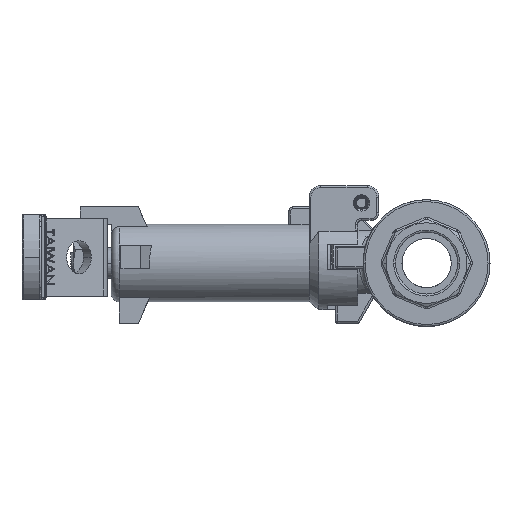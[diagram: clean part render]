
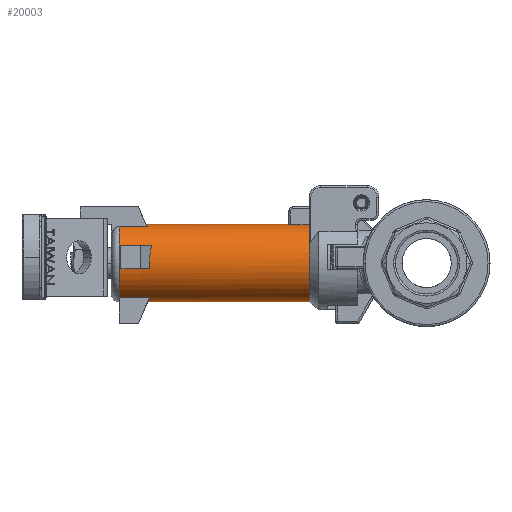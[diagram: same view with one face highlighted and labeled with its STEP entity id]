
A CAD part, left-side view. The second image highlights one B-rep face of the part: STEP entity #20003.
In plain terms, the highlighted cylindrical face has radius 10 mm (diameter 20 mm), a partial arc.
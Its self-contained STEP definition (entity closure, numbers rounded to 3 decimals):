
#409 =( BOUNDED_CURVE ( )  B_SPLINE_CURVE ( 3, ( #145292, #83401, #21596, #108368 ),
 .UNSPECIFIED., .F., .F. ) 
 B_SPLINE_CURVE_WITH_KNOTS ( ( 4, 4 ),
 ( 5.816, 6.434 ),
 .UNSPECIFIED. ) 
 CURVE ( )  GEOMETRIC_REPRESENTATION_ITEM ( )  RATIONAL_B_SPLINE_CURVE ( ( 1., 0.968, 0.968, 1. ) ) 
 REPRESENTATION_ITEM ( '' )  );
#996 = VERTEX_POINT ( 'NONE', #106354 ) ;
#2001 = VERTEX_POINT ( 'NONE', #64429 ) ;
#3037 =( BOUNDED_CURVE ( )  B_SPLINE_CURVE ( 3, ( #81118, #155459, #19293, #106054 ),
 .UNSPECIFIED., .F., .T. ) 
 B_SPLINE_CURVE_WITH_KNOTS ( ( 4, 4 ),
 ( 0., 0.358 ),
 .UNSPECIFIED. ) 
 CURVE ( )  GEOMETRIC_REPRESENTATION_ITEM ( )  RATIONAL_B_SPLINE_CURVE ( ( 1., 0.989, 0.989, 1. ) ) 
 REPRESENTATION_ITEM ( '' )  );
#3659 = CARTESIAN_POINT ( 'NONE',  ( -8.93, 45.492, 4.5 ) ) ;
#4937 = EDGE_CURVE ( 'NONE', #80709, #47697, #115204, .T. ) ;
#6174 = CARTESIAN_POINT ( 'NONE',  ( 0., 45.492, 10. ) ) ;
#7942 = VECTOR ( 'NONE', #105414, 1000. ) ;
#8318 = DIRECTION ( 'NONE',  ( 0., -1., 0. ) ) ;
#11839 = CIRCLE ( 'NONE', #21648, 10. ) ;
#12316 = VERTEX_POINT ( 'NONE', #158251 ) ;
#12679 = EDGE_CURVE ( 'NONE', #158412, #60089, #139936, .T. ) ;
#13613 = VERTEX_POINT ( 'NONE', #47109 ) ;
#14112 = VECTOR ( 'NONE', #48323, 1000. ) ;
#16865 = EDGE_CURVE ( 'NONE', #53509, #158412, #11839, .T. ) ;
#17288 = EDGE_LOOP ( 'NONE', ( #35042, #120536, #21696, #91595 ) ) ;
#18077 = LINE ( 'NONE', #107257, #146193 ) ;
#19293 = CARTESIAN_POINT ( 'NONE',  ( -2.377, 47.451, 9.787 ) ) ;
#19975 = VERTEX_POINT ( 'NONE', #131655 ) ;
#20003 = ADVANCED_FACE ( 'NONE', ( #61790, #32718 ), #65704, .T. ) ;
#20506 = DIRECTION ( 'NONE',  ( 0., 1., 0. ) ) ;
#20508 = DIRECTION ( 'NONE',  ( 0., 1., 0. ) ) ;
#21596 = CARTESIAN_POINT ( 'NONE',  ( -10.201, 46.696, 0.567 ) ) ;
#21648 = AXIS2_PLACEMENT_3D ( 'NONE', #57253, #144123, #69793 ) ;
#21696 = ORIENTED_EDGE ( 'NONE', *, *, #31898, .T. ) ;
#24418 = CARTESIAN_POINT ( 'NONE',  ( -9.887, 54., -1.5 ) ) ;
#24545 = EDGE_CURVE ( 'NONE', #19975, #53942, #64963, .T. ) ;
#27152 = CARTESIAN_POINT ( 'NONE',  ( -4.5, 46.643, -8.93 ) ) ;
#27699 = CARTESIAN_POINT ( 'NONE',  ( 0., 47.109, -10. ) ) ;
#30396 = DIRECTION ( 'NONE',  ( 0., 1., 0. ) ) ;
#31898 = EDGE_CURVE ( 'NONE', #53942, #59941, #59138, .T. ) ;
#31965 = VECTOR ( 'NONE', #33639, 1000. ) ;
#32276 = ORIENTED_EDGE ( 'NONE', *, *, #89707, .T. ) ;
#32495 = ORIENTED_EDGE ( 'NONE', *, *, #53659, .T. ) ;
#32718 = FACE_BOUND ( 'NONE', #17288, .T. ) ;
#33639 = DIRECTION ( 'NONE',  ( 0., 1., 0. ) ) ;
#34189 = CARTESIAN_POINT ( 'NONE',  ( -4.5, 45.492, -8.93 ) ) ;
#35042 = ORIENTED_EDGE ( 'NONE', *, *, #61333, .T. ) ;
#35447 = CIRCLE ( 'NONE', #96741, 10. ) ;
#35875 = CARTESIAN_POINT ( 'NONE',  ( -3.5, 45.492, 9.367 ) ) ;
#39040 = ORIENTED_EDGE ( 'NONE', *, *, #4937, .T. ) ;
#39493 = CARTESIAN_POINT ( 'NONE',  ( -8.93, 46.143, 4.5 ) ) ;
#40630 = EDGE_CURVE ( 'NONE', #138505, #12316, #18077, .T. ) ;
#41514 =( BOUNDED_CURVE ( )  B_SPLINE_CURVE ( 3, ( #27152, #126403, #101992, #27699 ),
 .UNSPECIFIED., .F., .F. ) 
 B_SPLINE_CURVE_WITH_KNOTS ( ( 4, 4 ),
 ( 5.816, 6.283 ),
 .UNSPECIFIED. ) 
 CURVE ( )  GEOMETRIC_REPRESENTATION_ITEM ( )  RATIONAL_B_SPLINE_CURVE ( ( 1., 0.982, 0.982, 1. ) ) 
 REPRESENTATION_ITEM ( '' )  );
#42140 = ORIENTED_EDGE ( 'NONE', *, *, #115755, .T. ) ;
#45317 = VECTOR ( 'NONE', #120946, 1000. ) ;
#47109 = CARTESIAN_POINT ( 'NONE',  ( -3.5, 47.268, 9.367 ) ) ;
#47697 = VERTEX_POINT ( 'NONE', #54552 ) ;
#48323 = DIRECTION ( 'NONE',  ( 0., 1., 0. ) ) ;
#53509 = VERTEX_POINT ( 'NONE', #153577 ) ;
#53659 = EDGE_CURVE ( 'NONE', #996, #53509, #35447, .T. ) ;
#53942 = VERTEX_POINT ( 'NONE', #24418 ) ;
#54552 = CARTESIAN_POINT ( 'NONE',  ( -4.5, 46.643, -8.93 ) ) ;
#55635 = EDGE_CURVE ( 'NONE', #59941, #101024, #68156, .T. ) ;
#57253 = CARTESIAN_POINT ( 'NONE',  ( 0., 5.5, 0. ) ) ;
#59138 = CIRCLE ( 'NONE', #111019, 10. ) ;
#59941 = VERTEX_POINT ( 'NONE', #100351 ) ;
#60089 = VERTEX_POINT ( 'NONE', #78081 ) ;
#60400 = DIRECTION ( 'NONE',  ( 0., 1., 0. ) ) ;
#61333 = EDGE_CURVE ( 'NONE', #101024, #19975, #409, .T. ) ;
#61790 = FACE_OUTER_BOUND ( 'NONE', #157104, .T. ) ;
#64429 = CARTESIAN_POINT ( 'NONE',  ( -3.5, 54.5, 9.367 ) ) ;
#64963 = LINE ( 'NONE', #95453, #31965 ) ;
#65704 = CYLINDRICAL_SURFACE ( 'NONE', #124748, 10. ) ;
#66599 = DIRECTION ( 'NONE',  ( 0., -1., 0. ) ) ;
#68156 = LINE ( 'NONE', #3659, #126340 ) ;
#69777 = CARTESIAN_POINT ( 'NONE',  ( 0., 5.5, 10. ) ) ;
#69793 = DIRECTION ( 'NONE',  ( 0., 0., 1. ) ) ;
#70656 = CIRCLE ( 'NONE', #123854, 10. ) ;
#71086 = CARTESIAN_POINT ( 'NONE',  ( 0., 5.5, 0. ) ) ;
#78081 = CARTESIAN_POINT ( 'NONE',  ( 0., 47.543, 10. ) ) ;
#80709 = VERTEX_POINT ( 'NONE', #118550 ) ;
#81118 = CARTESIAN_POINT ( 'NONE',  ( 0., 47.543, 10. ) ) ;
#82305 = CARTESIAN_POINT ( 'NONE',  ( 0., 45.492, 0. ) ) ;
#82602 = CARTESIAN_POINT ( 'NONE',  ( 0., 54.5, 0. ) ) ;
#83401 = CARTESIAN_POINT ( 'NONE',  ( -9.871, 46.553, 2.633 ) ) ;
#83502 = DIRECTION ( 'NONE',  ( 0., 0., 1. ) ) ;
#83959 = LINE ( 'NONE', #35875, #14112 ) ;
#86075 = CIRCLE ( 'NONE', #149294, 10. ) ;
#88602 = ORIENTED_EDGE ( 'NONE', *, *, #12679, .T. ) ;
#89707 = EDGE_CURVE ( 'NONE', #2001, #80709, #86075, .T. ) ;
#91595 = ORIENTED_EDGE ( 'NONE', *, *, #55635, .T. ) ;
#95073 = DIRECTION ( 'NONE',  ( 0., 0., -1. ) ) ;
#95453 = CARTESIAN_POINT ( 'NONE',  ( -9.887, 45.492, -1.5 ) ) ;
#96741 = AXIS2_PLACEMENT_3D ( 'NONE', #71086, #157878, #83502 ) ;
#98189 = EDGE_CURVE ( 'NONE', #47697, #12316, #41514, .T. ) ;
#100351 = CARTESIAN_POINT ( 'NONE',  ( -8.93, 54., 4.5 ) ) ;
#101024 = VERTEX_POINT ( 'NONE', #39493 ) ;
#101992 = CARTESIAN_POINT ( 'NONE',  ( -1.57, 47.109, -10. ) ) ;
#104669 = CARTESIAN_POINT ( 'NONE',  ( 0., 5.5, 0. ) ) ;
#105414 = DIRECTION ( 'NONE',  ( 0., 1., 0. ) ) ;
#106054 = CARTESIAN_POINT ( 'NONE',  ( -3.5, 47.268, 9.367 ) ) ;
#106354 = CARTESIAN_POINT ( 'NONE',  ( -8.25, 5.5, 5.651 ) ) ;
#107257 = CARTESIAN_POINT ( 'NONE',  ( 0., 45.492, -10. ) ) ;
#107309 = ORIENTED_EDGE ( 'NONE', *, *, #40630, .F. ) ;
#108368 = CARTESIAN_POINT ( 'NONE',  ( -9.887, 46.559, -1.5 ) ) ;
#111019 = AXIS2_PLACEMENT_3D ( 'NONE', #134733, #60400, #147246 ) ;
#115204 = LINE ( 'NONE', #34189, #45317 ) ;
#115755 = EDGE_CURVE ( 'NONE', #138505, #996, #70656, .T. ) ;
#117155 = DIRECTION ( 'NONE',  ( 0., 0., 1. ) ) ;
#118550 = CARTESIAN_POINT ( 'NONE',  ( -4.5, 54.5, -8.93 ) ) ;
#118746 = ORIENTED_EDGE ( 'NONE', *, *, #98189, .T. ) ;
#119181 = DIRECTION ( 'NONE',  ( 0., 0., 1. ) ) ;
#120536 = ORIENTED_EDGE ( 'NONE', *, *, #24545, .T. ) ;
#120946 = DIRECTION ( 'NONE',  ( 0., -1., 0. ) ) ;
#121182 = CARTESIAN_POINT ( 'NONE',  ( 0., 5.5, -10. ) ) ;
#123854 = AXIS2_PLACEMENT_3D ( 'NONE', #104669, #30396, #117155 ) ;
#124748 = AXIS2_PLACEMENT_3D ( 'NONE', #82305, #20508, #119181 ) ;
#126340 = VECTOR ( 'NONE', #66599, 1000. ) ;
#126403 = CARTESIAN_POINT ( 'NONE',  ( -3.098, 46.951, -9.637 ) ) ;
#128178 = ORIENTED_EDGE ( 'NONE', *, *, #16865, .T. ) ;
#129082 = EDGE_CURVE ( 'NONE', #60089, #13613, #3037, .T. ) ;
#131655 = CARTESIAN_POINT ( 'NONE',  ( -9.887, 46.559, -1.5 ) ) ;
#133692 = ORIENTED_EDGE ( 'NONE', *, *, #138636, .T. ) ;
#134733 = CARTESIAN_POINT ( 'NONE',  ( 0., 54., 0. ) ) ;
#138505 = VERTEX_POINT ( 'NONE', #121182 ) ;
#138636 = EDGE_CURVE ( 'NONE', #13613, #2001, #83959, .T. ) ;
#139936 = LINE ( 'NONE', #6174, #7942 ) ;
#143394 = ORIENTED_EDGE ( 'NONE', *, *, #129082, .T. ) ;
#144123 = DIRECTION ( 'NONE',  ( 0., 1., 0. ) ) ;
#145292 = CARTESIAN_POINT ( 'NONE',  ( -8.93, 46.143, 4.5 ) ) ;
#146193 = VECTOR ( 'NONE', #20506, 1000. ) ;
#147246 = DIRECTION ( 'NONE',  ( 0., 0., -1. ) ) ;
#149294 = AXIS2_PLACEMENT_3D ( 'NONE', #82602, #8318, #95073 ) ;
#153577 = CARTESIAN_POINT ( 'NONE',  ( -3.122, 5.5, 9.5 ) ) ;
#155459 = CARTESIAN_POINT ( 'NONE',  ( -1.198, 47.543, 10. ) ) ;
#157104 = EDGE_LOOP ( 'NONE', ( #107309, #42140, #32495, #128178, #88602, #143394, #133692, #32276, #39040, #118746 ) ) ;
#157878 = DIRECTION ( 'NONE',  ( 0., 1., 0. ) ) ;
#158251 = CARTESIAN_POINT ( 'NONE',  ( 0., 47.109, -10. ) ) ;
#158412 = VERTEX_POINT ( 'NONE', #69777 ) ;
